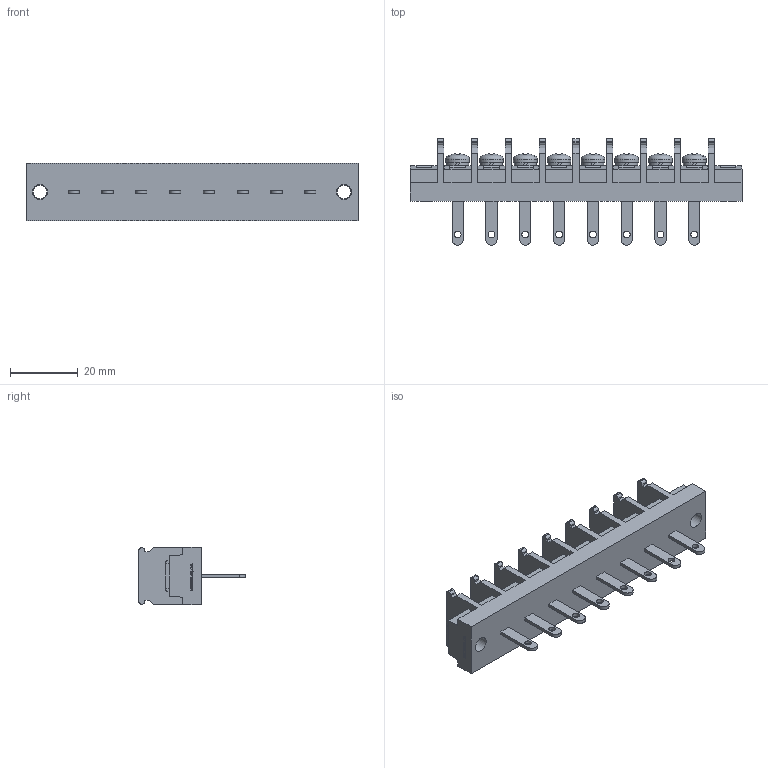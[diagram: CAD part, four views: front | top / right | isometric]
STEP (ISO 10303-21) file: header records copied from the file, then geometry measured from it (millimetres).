
FILE_DESCRIPTION(/* description */ ('Alibre Inc.'),/* implementation_level */ '2;1');
FILE_NAME(/* name */ 'export0',/* time_stamp */ '2015-10-14T19:20:22+09:00',/* author */ (''),/* organization */ (''),/* preprocessor_version */ 'ST-DEVELOPER v14',/* originating_system */ 'Alibre',/* authorisation */ '');
FILE_SCHEMA (('CONFIG_CONTROL_DESIGN'));
Length unit declared in the file: centimetre
Products named in the file (1): ID_1
Bounding box: 98.2 x 31.5 x 17 mm (x, y, z)
Volume: 18101.9 mm3; surface area: 11131.7 mm2
Topology: 1 solids, 17 shells, 988 faces, 2702 edges, 1796 vertices
Faces by surface type: plane 728, bspline 104, cylinder 100, cone 32, torus 16, sphere 8
Full cylindrical faces by diameter (mm): 2 x8, 4 x10, 4.5 x2, 6.5 x8, 7 x8
Entity records: 30218 total; most frequent: CARTESIAN_POINT 6568, ORIENTED_EDGE 5252, DIRECTION 3832, EDGE_CURVE 2626, VECTOR 1916, LINE 1916, VERTEX_POINT 1764, AXIS2_PLACEMENT_3D 1320
